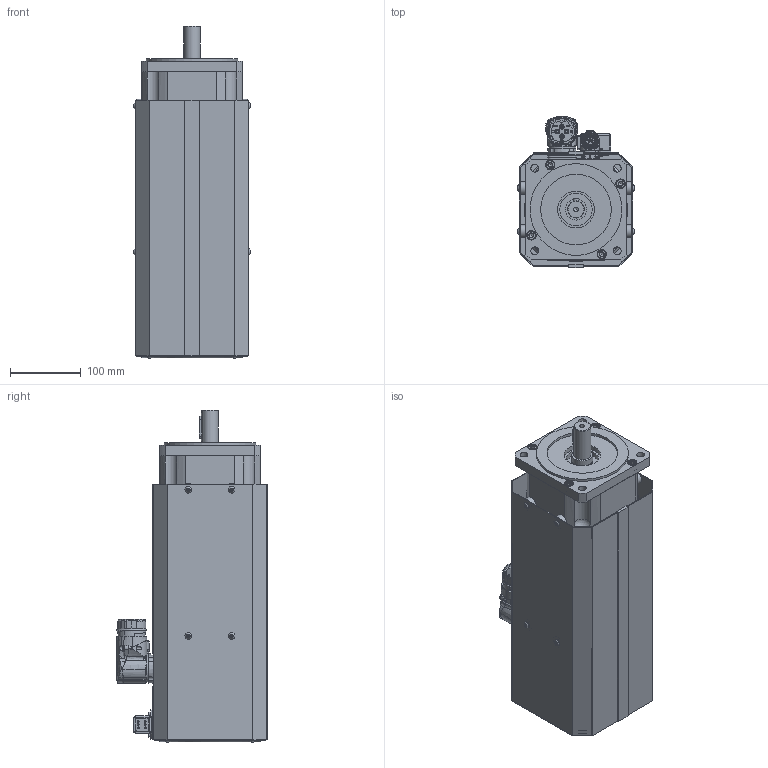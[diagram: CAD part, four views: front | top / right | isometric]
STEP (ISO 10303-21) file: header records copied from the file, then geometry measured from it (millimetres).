
FILE_DESCRIPTION(/* description */ (''),/* implementation_level */ '2;1');
FILE_NAME(/* name */ 'C:\Users\Public\Documents\Autodesk\Inventor LT 2014\Workspace\Motori Sito WEB\TG_5\DSF5_5\STEP_DSF5_5x\DSF5_54_x099.stp',/* time_stamp */ '2021-04-07T14:57:32+02:00',/* author */ ('marcor'),/* organization */ (''),/* preprocessor_version */ 'ST-DEVELOPER v15.2',/* originating_system */ 'Autodesk Inventor LT ',/* authorisation */ '');
FILE_SCHEMA (('AUTOMOTIVE_DESIGN { 1 0 10303 214 3 1 1 }'));
Products named in the file (1): DSF5_54_x099
Bounding box: 165.9 x 214.25 x 470.2 mm (x, y, z)
Volume: 6841954.9 mm3; surface area: 895315.3 mm2
Topology: 27 solids, 40 shells, 2159 faces, 5381 edges, 3486 vertices
Faces by surface type: plane 943, cylinder 475, cone 410, bspline 189, torus 105, sphere 37
Full cylindrical faces by diameter (mm): 1.2 x17, 2 x2, 2.2 x4, 2.224 x4, 2.4 x6, 2.5 x4, 2.88 x4, 3 x4, 3.26 x4, 3.5 x10, 3.6 x5, 4 x9, 4.134 x8, 4.5 x9, 4.8 x4, 4.917 x4, 5 x8, 5.4 x1, 5.5 x11, 5.9 x1, 6 x4, 6.5 x12, 6.647 x9, 7 x4, 7.5 x4, 8 x11, 8.5 x9, 10 x4, 11 x8, 12 x1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
Entity records: 71361 total; most frequent: CARTESIAN_POINT 22368, ORIENTED_EDGE 9576, DIRECTION 9342, EDGE_CURVE 4746, AXIS2_PLACEMENT_3D 3705, VERTEX_POINT 3308, EDGE_LOOP 2900, ADVANCED_FACE 2159
